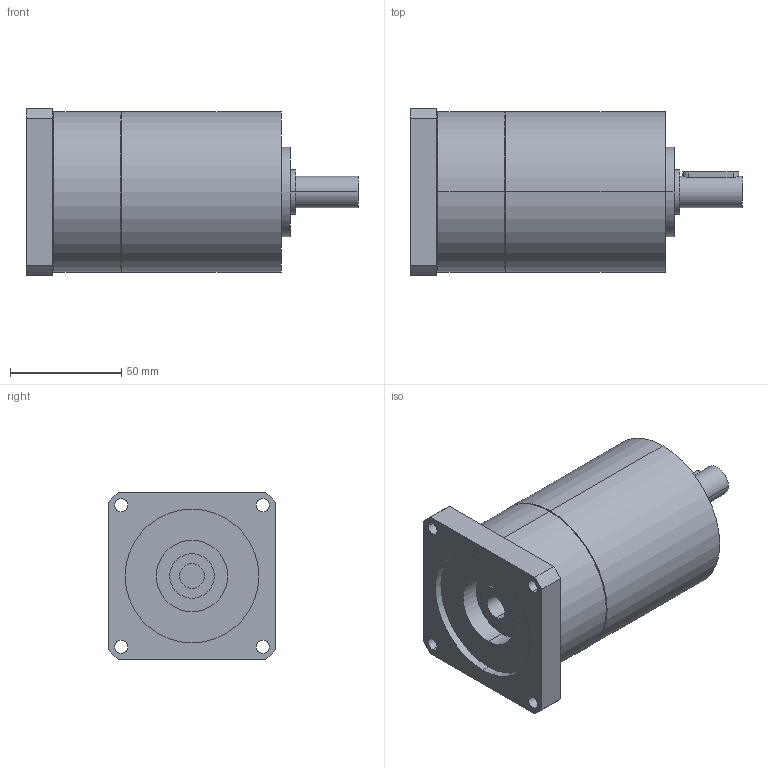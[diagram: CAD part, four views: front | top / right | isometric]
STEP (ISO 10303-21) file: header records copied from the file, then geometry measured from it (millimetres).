
FILE_DESCRIPTION(('CoCreate Modeling STEP Export'),'2;1');
FILE_NAME('GPT75_ig-9-12-16-20-25-28-35-40-50-70-100_14_B14T_11_P15.stp','2014-08-27T13:08:32',(''),(''),'CoCreate Modeling STEP processor for AP214 (Solid Model)','CoCreate Modeling 16.00C 25-Feb-2009 (C) Parametric Technology GmbH','');
FILE_SCHEMA(('AUTOMOTIVE_DESIGN { 1 0 10303 214 1 1 1 1 }'));
Length unit declared in the file: millimetre
Products named in the file (2): GPT75_ig-9-12-16-20-25-28-35-40-50-70-100_14_B14T_11_P15
Assembly tree (1 placements, depth 2):
  GPT75_ig-9-12-16-20-25-28-35-40-50-70-100_14_B14T_11_P15
    GPT75_ig-9-12-16-20-25-28-35-40-50-70-100_14_B14T_11_P15
Bounding box: 149 x 75 x 75 mm (x, y, z)
Volume: 473738 mm3; surface area: 44493.8 mm2
Topology: 1 solids, 1 shells, 69 faces, 166 edges, 113 vertices
Faces by surface type: cylinder 42, plane 23, cone 4
Entity records: 2161 total; most frequent: CARTESIAN_POINT 664, ORIENTED_EDGE 332, DIRECTION 262, EDGE_CURVE 166, VERTEX_POINT 113, AXIS2_PLACEMENT_3D 99, EDGE_LOOP 91, FACE_OUTER_BOUND 69
